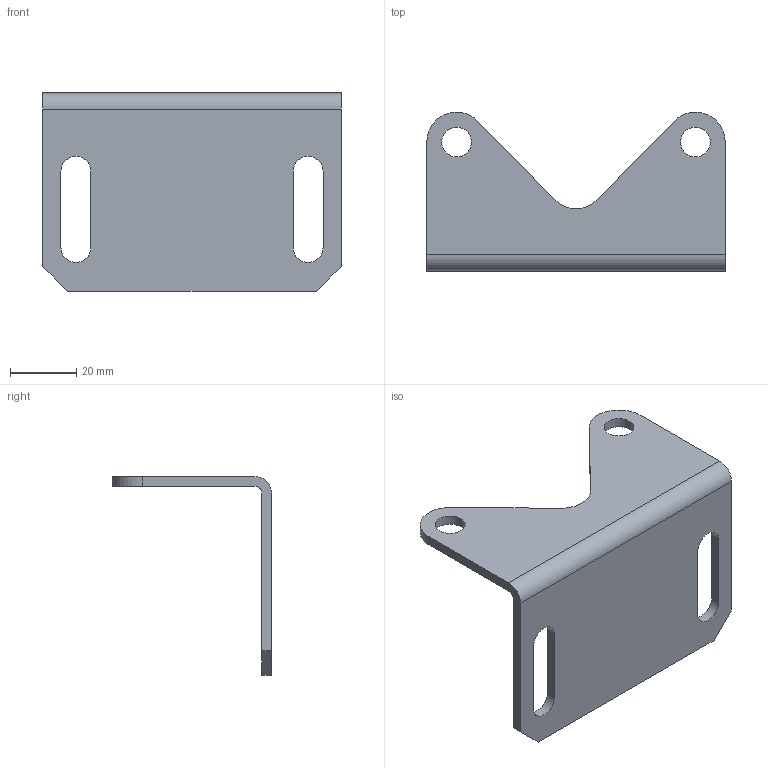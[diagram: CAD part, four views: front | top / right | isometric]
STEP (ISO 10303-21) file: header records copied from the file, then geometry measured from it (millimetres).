
FILE_DESCRIPTION(/* description */ (''),/* implementation_level */ '2;1');
FILE_NAME(/* name */ 'B-BW00-45.step',/* time_stamp */ '2024-06-04T10:24:14+02:00',/* author */ (''),/* organization */ (''),/* preprocessor_version */ 'ST-DEVELOPER v20',/* originating_system */ 'Autodesk Translation Framework v13.14.0.145',/* authorisation */ '');
FILE_SCHEMA (('AUTOMOTIVE_DESIGN { 1 0 10303 214 3 1 1 }'));
Length unit declared in the file: millimetre
Products named in the file (1): B-BW00-45
Bounding box: 90 x 47.99 x 60 mm (x, y, z)
Volume: 22521.6 mm3; surface area: 16809.9 mm2
Topology: 1 solids, 1 shells, 26 faces, 72 edges, 48 vertices
Faces by surface type: plane 15, cylinder 11
Full cylindrical faces by diameter (mm): 9 x2
Entity records: 887 total; most frequent: DIRECTION 148, CARTESIAN_POINT 147, ORIENTED_EDGE 144, EDGE_CURVE 72, LINE 50, VECTOR 50, AXIS2_PLACEMENT_3D 49, VERTEX_POINT 48
